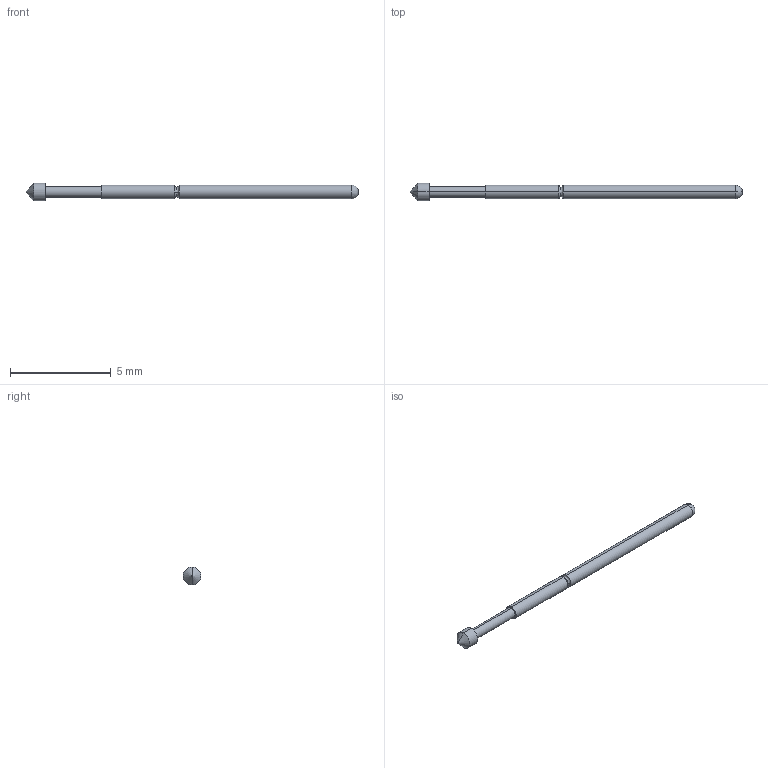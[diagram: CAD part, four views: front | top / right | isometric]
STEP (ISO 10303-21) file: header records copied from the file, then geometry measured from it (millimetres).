
FILE_DESCRIPTION (( 'STEP AP214' ), '1' );
FILE_NAME ('NM-PA1DL.STEP', '2026-02-24T11:02:30', ( '' ), ( '' ), 'SwSTEP 2.0', 'SolidWorks 2024', '' );
FILE_SCHEMA (( 'AUTOMOTIVE_DESIGN' ));
Length unit declared in the file: millimetre
Products named in the file (1): NM-PA1DL
Bounding box: 16.5 x 0.89 x 0.89 mm (x, y, z)
Volume: 5.6 mm3; surface area: 35 mm2
Topology: 1 solids, 1 shells, 21 faces, 46 edges, 29 vertices
Faces by surface type: cylinder 8, bspline 4, plane 3, torus 2, cone 2, sphere 2
Entity records: 663 total; most frequent: CARTESIAN_POINT 169, DIRECTION 110, ORIENTED_EDGE 92, AXIS2_PLACEMENT_3D 50, EDGE_CURVE 46, CIRCLE 32, VERTEX_POINT 29, EDGE_LOOP 23
